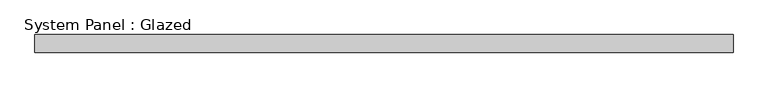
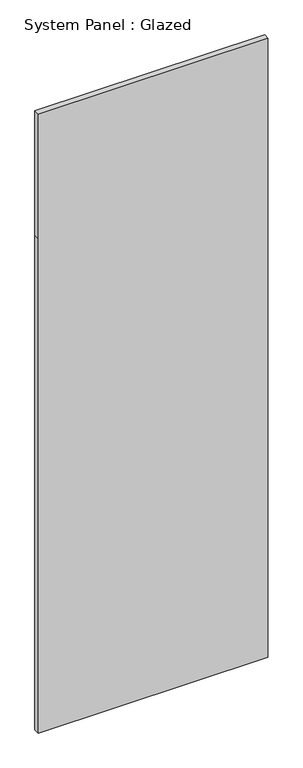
"""IFC4 building model written with IfcOpenShell, lengths in millimetres: plate geometry, System Panel : Glazed."""

from ifc_helpers import new_model, si_unit, frame, origin, place, context, project, spatial, polyline, outline, extrude, source, transform, mapped, element, save


def system_panel_glazed_d4fad6d7(model_context):
    return source(origin(), model_context, "Body", "SweptSolid", [
        extrude(outline(polyline([(0.0, -498.5714287), (0.0, 498.5714287), (2270.0, 498.5714287), (2840.0, 498.5714287), (2840.0, -498.5714287), (2270.0, -498.5714287), (0.0, -498.5714287)])), frame((0.0, 19.05, 0.0), z_axis=(0.0, 1.0, 0.0), x_axis=(0.0, 0.0, 1.0)), (0.0, 0.0, 1.0), 25.4),
    ])


if __name__ == "__main__":
    model = new_model("IFC4")
    model_context = context("Model", 3, world=origin())
    ifc_project = project(units=[si_unit("LENGTHUNIT", "METRE", prefix="MILLI")], contexts=[model_context])
    site = spatial("IfcSite", under=ifc_project)
    building = spatial("IfcBuilding", under=site)
    placement = place(None, origin())
    system_panel_glazed_shape = system_panel_glazed_d4fad6d7(model_context)
    element("IfcPlate", 1, ObjectType="System Panel : Glazed", at=placement, inside=building, context=model_context, shape_type="MappedRepresentation", body=[
        mapped(system_panel_glazed_shape, transform((0.0, 0.0, 0.0), x_axis=(1.0, 0.0, 0.0), y_axis=(0.0, 1.0, 0.0), z_axis=(0.0, 0.0, 1.0))),
    ])
    save(model, "model.ifc")
